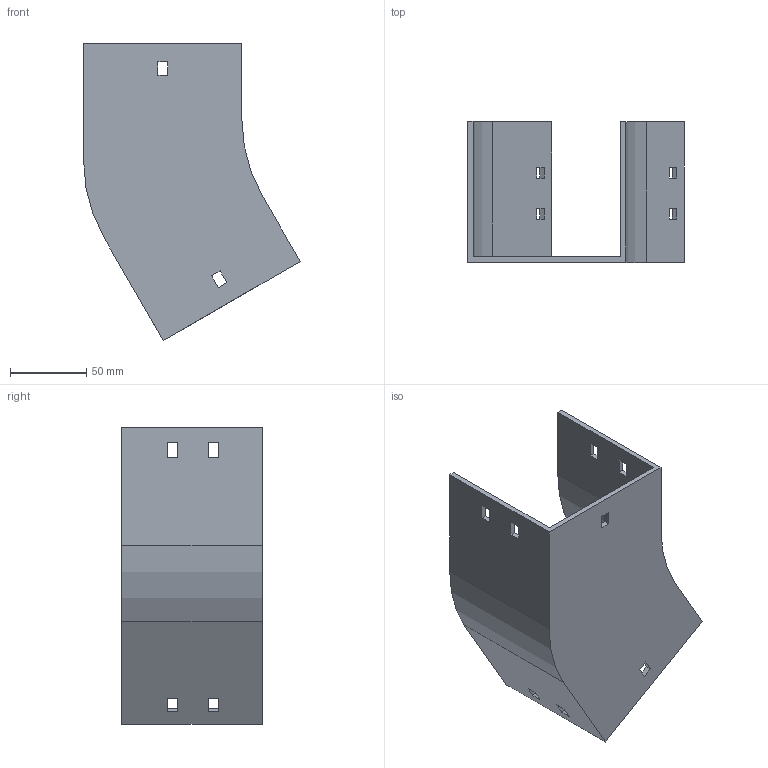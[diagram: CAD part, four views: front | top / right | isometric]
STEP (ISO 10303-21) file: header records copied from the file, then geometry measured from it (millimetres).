
FILE_DESCRIPTION (( 'STEP AP214' ), '1' );
FILE_NAME ('12B1I100.step', '2025-02-21T09:36:06', ( '' ), ( '' ), 'SwSTEP 2.0', 'SolidWorks 2023', '' );
FILE_SCHEMA (( 'AUTOMOTIVE_DESIGN' ));
Length unit declared in the file: millimetre
Products named in the file (1): 12B1I100
Bounding box: 142.4 x 92.5 x 195.3 mm (x, y, z)
Volume: 175961.9 mm3; surface area: 104954.2 mm2
Topology: 1 solids, 1 shells, 58 faces, 168 edges, 112 vertices
Faces by surface type: plane 54, cylinder 4
Entity records: 1943 total; most frequent: CARTESIAN_POINT 339, ORIENTED_EDGE 336, DIRECTION 294, EDGE_CURVE 168, LINE 160, VECTOR 160, VERTEX_POINT 112, EDGE_LOOP 78
